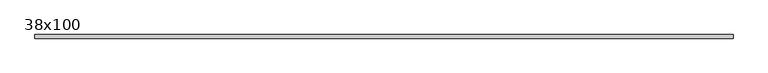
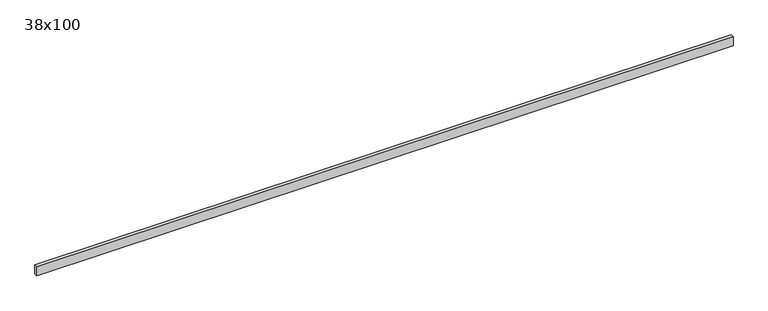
"""IFC4 building model written with IfcOpenShell, lengths in millimetres: beam geometry, Poutre - Bois de construction de dimensions courantes : 38x100."""

from ifc_helpers import new_model, si_unit, frame, origin, place, context, project, spatial, polyline, outline, extrude, source, transform, mapped, element, save


def beam_38x100_bc2c80af(model_context):
    return source(origin(), model_context, "Body", "SweptSolid", [
        extrude(outline(polyline([(3694.0, 19.05), (3694.0, -19.05), (-3694.0, -19.05), (-3694.0, 19.05), (3694.0, 19.05)])), frame((0.0, 0.0, -50.0), z_axis=(0.0, 0.0, 1.0), x_axis=(1.0, 0.0, 0.0)), (0.0, 0.0, 1.0), 100.0),
    ])


if __name__ == "__main__":
    model = new_model("IFC4")
    model_context = context("Model", 3, world=origin())
    ifc_project = project(units=[si_unit("LENGTHUNIT", "METRE", prefix="MILLI")], contexts=[model_context])
    site = spatial("IfcSite", under=ifc_project)
    building = spatial("IfcBuilding", under=site)
    placement = place(None, origin())
    beam_38x100_shape = beam_38x100_bc2c80af(model_context)
    element("IfcBeam", 1, ObjectType="Poutre - Bois de construction de dimensions courantes : 38x100", at=placement, inside=building, context=model_context, shape_type="MappedRepresentation", body=[
        mapped(beam_38x100_shape, transform((0.0, 0.0, 0.0), x_axis=(1.0, 0.0, 0.0), y_axis=(0.0, 1.0, 0.0), z_axis=(0.0, 0.0, 1.0))),
    ])
    save(model, "model.ifc")
